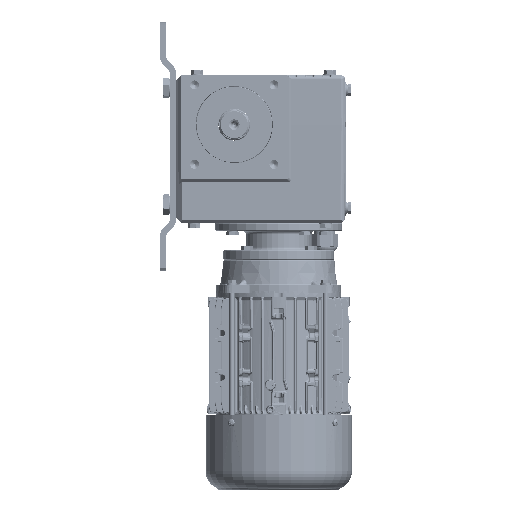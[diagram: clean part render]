
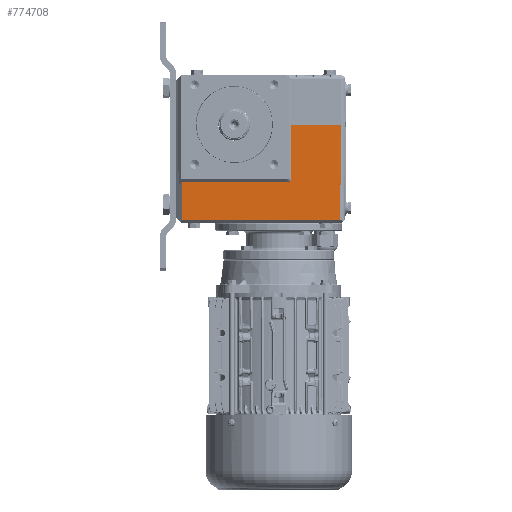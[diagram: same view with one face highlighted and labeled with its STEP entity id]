
A CAD part, left-side view. The second image highlights one B-rep face of the part: STEP entity #774708.
In plain terms, the highlighted planar face has unit normal (-1, 0, -0.009).
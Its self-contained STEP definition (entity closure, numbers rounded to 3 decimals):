
#416 = LINE ( 'NONE', #250301, #523713 ) ;
#5939 = LINE ( 'NONE', #727745, #459897 ) ;
#12836 = EDGE_CURVE ( 'NONE', #726270, #319061, #112831, .T. ) ;
#34076 = ORIENTED_EDGE ( 'NONE', *, *, #231358, .T. ) ;
#37227 = DIRECTION ( 'NONE',  ( -0.009, 0., 1. ) ) ;
#105307 = CARTESIAN_POINT ( 'NONE',  ( -92.215, 53., -90. ) ) ;
#106632 = EDGE_LOOP ( 'NONE', ( #428722, #501740, #547048, #471272, #645781, #174349, #34076, #652066 ) ) ;
#112831 = LINE ( 'NONE', #370528, #378703 ) ;
#117781 = VERTEX_POINT ( 'NONE', #161111 ) ;
#119565 = LINE ( 'NONE', #365351, #302158 ) ;
#127141 = CARTESIAN_POINT ( 'NONE',  ( -93., -100.756, 0. ) ) ;
#142962 = VERTEX_POINT ( 'NONE', #127141 ) ;
#161111 = CARTESIAN_POINT ( 'NONE',  ( -92.529, 49.529, -53.971 ) ) ;
#161848 =( BOUNDED_CURVE ( )  B_SPLINE_CURVE ( 3, ( #653218, #358890, #294499, #472070 ),
 .UNSPECIFIED., .F., .F. ) 
 B_SPLINE_CURVE_WITH_KNOTS ( ( 4, 4 ),
 ( 2.61, 3.658 ),
 .UNSPECIFIED. ) 
 CURVE ( )  GEOMETRIC_REPRESENTATION_ITEM ( )  RATIONAL_B_SPLINE_CURVE ( ( 1., 0.911, 0.911, 1. ) ) 
 REPRESENTATION_ITEM ( '' )  );
#174349 = ORIENTED_EDGE ( 'NONE', *, *, #717063, .F. ) ;
#189443 = DIRECTION ( 'NONE',  ( -0.009, 0.009, 1. ) ) ;
#231358 = EDGE_CURVE ( 'NONE', #259030, #500736, #161848, .T. ) ;
#232342 = EDGE_CURVE ( 'NONE', #117781, #500736, #267119, .T. ) ;
#234002 = CARTESIAN_POINT ( 'NONE',  ( -93.008, -53.492, 0.929 ) ) ;
#242392 = DIRECTION ( 'NONE',  ( 0., -1., 0. ) ) ;
#250301 = CARTESIAN_POINT ( 'NONE',  ( -93., 53., 0. ) ) ;
#259030 = VERTEX_POINT ( 'NONE', #341513 ) ;
#267119 = LINE ( 'NONE', #400044, #783223 ) ;
#288084 = CARTESIAN_POINT ( 'NONE',  ( -92.529, -51.85, -53.971 ) ) ;
#294499 = CARTESIAN_POINT ( 'NONE',  ( -92.529, -53.195, -53.971 ) ) ;
#302158 = VECTOR ( 'NONE', #554838, 1000. ) ;
#304964 = CARTESIAN_POINT ( 'NONE',  ( -93., -100.757, 0. ) ) ;
#313048 = EDGE_CURVE ( 'NONE', #567862, #142962, #119565, .T. ) ;
#319061 = VERTEX_POINT ( 'NONE', #304964 ) ;
#341513 = CARTESIAN_POINT ( 'NONE',  ( -92.548, -53.952, -51.831 ) ) ;
#350400 = CARTESIAN_POINT ( 'NONE',  ( -92.215, 49.215, -90. ) ) ;
#358890 = CARTESIAN_POINT ( 'NONE',  ( -92.536, -53.964, -53.188 ) ) ;
#365351 = CARTESIAN_POINT ( 'NONE',  ( -93., 53., 0. ) ) ;
#370528 = CARTESIAN_POINT ( 'NONE',  ( -93., -100.757, 0.011 ) ) ;
#378703 = VECTOR ( 'NONE', #415210, 1000. ) ;
#400044 = CARTESIAN_POINT ( 'NONE',  ( -92.529, 53., -53.971 ) ) ;
#407755 = DIRECTION ( 'NONE',  ( 0., -1., 0. ) ) ;
#415210 = DIRECTION ( 'NONE',  ( -0.009, -0.009, 1. ) ) ;
#419734 = LINE ( 'NONE', #105307, #780690 ) ;
#428722 = ORIENTED_EDGE ( 'NONE', *, *, #670182, .T. ) ;
#459897 = VECTOR ( 'NONE', #796143, 1000. ) ;
#471272 = ORIENTED_EDGE ( 'NONE', *, *, #691170, .F. ) ;
#472070 = CARTESIAN_POINT ( 'NONE',  ( -92.529, -51.85, -53.971 ) ) ;
#472682 = CARTESIAN_POINT ( 'NONE',  ( -93., 53., 0. ) ) ;
#500736 = VERTEX_POINT ( 'NONE', #288084 ) ;
#501740 = ORIENTED_EDGE ( 'NONE', *, *, #781073, .T. ) ;
#517006 = DIRECTION ( 'NONE',  ( 0., -1., 0. ) ) ;
#521506 = VECTOR ( 'NONE', #189443, 1000. ) ;
#523713 = VECTOR ( 'NONE', #242392, 1000. ) ;
#547048 = ORIENTED_EDGE ( 'NONE', *, *, #12836, .T. ) ;
#554838 = DIRECTION ( 'NONE',  ( 0., -1., 0. ) ) ;
#567862 = VERTEX_POINT ( 'NONE', #633906 ) ;
#577918 = CARTESIAN_POINT ( 'NONE',  ( -92.215, -99.972, -90. ) ) ;
#589497 = PLANE ( 'NONE',  #599582 ) ;
#593471 = DIRECTION ( 'NONE',  ( -1., 0., -0.009 ) ) ;
#599582 = AXIS2_PLACEMENT_3D ( 'NONE', #472682, #593471, #37227 ) ;
#633906 = CARTESIAN_POINT ( 'NONE',  ( -93., -53.5, 0. ) ) ;
#645781 = ORIENTED_EDGE ( 'NONE', *, *, #313048, .F. ) ;
#652066 = ORIENTED_EDGE ( 'NONE', *, *, #232342, .F. ) ;
#653218 = CARTESIAN_POINT ( 'NONE',  ( -92.548, -53.952, -51.831 ) ) ;
#653821 = FACE_OUTER_BOUND ( 'NONE', #106632, .T. ) ;
#670182 = EDGE_CURVE ( 'NONE', #117781, #749860, #5939, .T. ) ;
#691170 = EDGE_CURVE ( 'NONE', #142962, #319061, #416, .T. ) ;
#717063 = EDGE_CURVE ( 'NONE', #259030, #567862, #786254, .T. ) ;
#726270 = VERTEX_POINT ( 'NONE', #577918 ) ;
#727745 = CARTESIAN_POINT ( 'NONE',  ( -92.585, 49.585, -47.5 ) ) ;
#749860 = VERTEX_POINT ( 'NONE', #350400 ) ;
#774708 = ADVANCED_FACE ( 'NONE', ( #653821 ), #589497, .T. ) ;
#780690 = VECTOR ( 'NONE', #407755, 1000. ) ;
#781073 = EDGE_CURVE ( 'NONE', #749860, #726270, #419734, .T. ) ;
#783223 = VECTOR ( 'NONE', #517006, 1000. ) ;
#786254 = LINE ( 'NONE', #234002, #521506 ) ;
#796143 = DIRECTION ( 'NONE',  ( 0.009, -0.009, -1. ) ) ;
